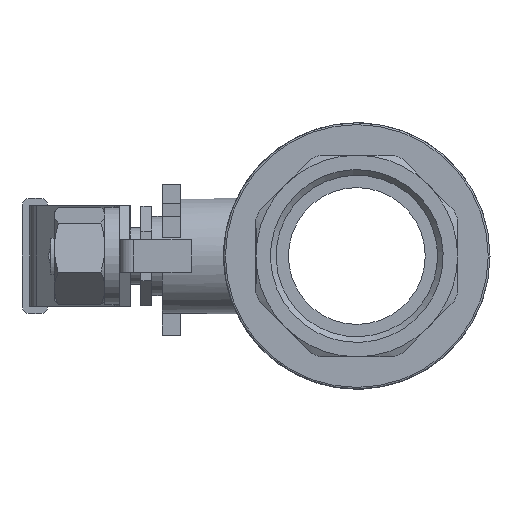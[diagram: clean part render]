
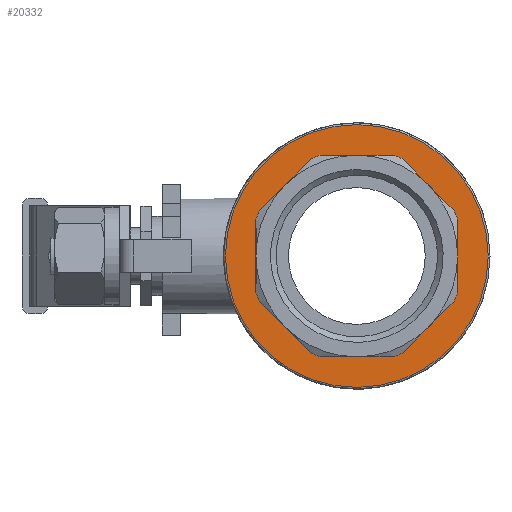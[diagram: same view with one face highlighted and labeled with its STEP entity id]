
A CAD part, left-side view. The second image highlights one B-rep face of the part: STEP entity #20332.
In plain terms, the highlighted planar face has unit normal (-1, 0, 0).
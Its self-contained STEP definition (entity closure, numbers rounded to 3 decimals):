
#185=FACE_BOUND('',#3270,.T.);
#1218=PLANE('',#21448);
#2189=FACE_OUTER_BOUND('',#3269,.T.);
#3269=EDGE_LOOP('',(#18044));
#3270=EDGE_LOOP('',(#18045,#18046,#18047,#18048,#18049,#18050,#18051,#18052,
#18053,#18054,#18055,#18056,#18057,#18058,#18059,#18060));
#5623=LINE('',#32849,#7963);
#5624=LINE('',#32853,#7964);
#5625=LINE('',#32857,#7965);
#5626=LINE('',#32861,#7966);
#5627=LINE('',#32865,#7967);
#5628=LINE('',#32869,#7968);
#5629=LINE('',#32873,#7969);
#5630=LINE('',#32876,#7970);
#7963=VECTOR('',#25925,10.);
#7964=VECTOR('',#25928,10.);
#7965=VECTOR('',#25931,10.);
#7966=VECTOR('',#25934,10.);
#7967=VECTOR('',#25937,10.);
#7968=VECTOR('',#25940,10.);
#7969=VECTOR('',#25943,10.);
#7970=VECTOR('',#25946,10.);
#8165=CIRCLE('',#21446,36.5);
#8167=CIRCLE('',#21449,29.8);
#8168=CIRCLE('',#21450,29.8);
#8169=CIRCLE('',#21451,29.8);
#8170=CIRCLE('',#21452,29.8);
#8171=CIRCLE('',#21453,29.8);
#8172=CIRCLE('',#21454,29.8);
#8173=CIRCLE('',#21455,29.8);
#8174=CIRCLE('',#21456,29.8);
#9965=VERTEX_POINT('',#32840);
#9966=VERTEX_POINT('',#32845);
#9967=VERTEX_POINT('',#32846);
#9968=VERTEX_POINT('',#32848);
#9969=VERTEX_POINT('',#32850);
#9970=VERTEX_POINT('',#32852);
#9971=VERTEX_POINT('',#32854);
#9972=VERTEX_POINT('',#32856);
#9973=VERTEX_POINT('',#32858);
#9974=VERTEX_POINT('',#32860);
#9975=VERTEX_POINT('',#32862);
#9976=VERTEX_POINT('',#32864);
#9977=VERTEX_POINT('',#32866);
#9978=VERTEX_POINT('',#32868);
#9979=VERTEX_POINT('',#32870);
#9980=VERTEX_POINT('',#32872);
#9981=VERTEX_POINT('',#32874);
#12669=EDGE_CURVE('',#9965,#9965,#8165,.T.);
#12671=EDGE_CURVE('',#9966,#9967,#8167,.T.);
#12672=EDGE_CURVE('',#9968,#9967,#5623,.T.);
#12673=EDGE_CURVE('',#9968,#9969,#8168,.T.);
#12674=EDGE_CURVE('',#9970,#9969,#5624,.T.);
#12675=EDGE_CURVE('',#9970,#9971,#8169,.T.);
#12676=EDGE_CURVE('',#9972,#9971,#5625,.T.);
#12677=EDGE_CURVE('',#9972,#9973,#8170,.T.);
#12678=EDGE_CURVE('',#9974,#9973,#5626,.T.);
#12679=EDGE_CURVE('',#9974,#9975,#8171,.T.);
#12680=EDGE_CURVE('',#9976,#9975,#5627,.T.);
#12681=EDGE_CURVE('',#9976,#9977,#8172,.T.);
#12682=EDGE_CURVE('',#9978,#9977,#5628,.T.);
#12683=EDGE_CURVE('',#9978,#9979,#8173,.T.);
#12684=EDGE_CURVE('',#9980,#9979,#5629,.T.);
#12685=EDGE_CURVE('',#9980,#9981,#8174,.T.);
#12686=EDGE_CURVE('',#9966,#9981,#5630,.T.);
#18044=ORIENTED_EDGE('',*,*,#12669,.F.);
#18045=ORIENTED_EDGE('',*,*,#12671,.T.);
#18046=ORIENTED_EDGE('',*,*,#12672,.F.);
#18047=ORIENTED_EDGE('',*,*,#12673,.T.);
#18048=ORIENTED_EDGE('',*,*,#12674,.F.);
#18049=ORIENTED_EDGE('',*,*,#12675,.T.);
#18050=ORIENTED_EDGE('',*,*,#12676,.F.);
#18051=ORIENTED_EDGE('',*,*,#12677,.T.);
#18052=ORIENTED_EDGE('',*,*,#12678,.F.);
#18053=ORIENTED_EDGE('',*,*,#12679,.T.);
#18054=ORIENTED_EDGE('',*,*,#12680,.F.);
#18055=ORIENTED_EDGE('',*,*,#12681,.T.);
#18056=ORIENTED_EDGE('',*,*,#12682,.F.);
#18057=ORIENTED_EDGE('',*,*,#12683,.T.);
#18058=ORIENTED_EDGE('',*,*,#12684,.F.);
#18059=ORIENTED_EDGE('',*,*,#12685,.T.);
#18060=ORIENTED_EDGE('',*,*,#12686,.F.);
#20332=ADVANCED_FACE('',(#2189,#185),#1218,.T.);
#21446=AXIS2_PLACEMENT_3D('',#32842,#25917,#25918);
#21448=AXIS2_PLACEMENT_3D('',#32844,#25921,#25922);
#21449=AXIS2_PLACEMENT_3D('',#32847,#25923,#25924);
#21450=AXIS2_PLACEMENT_3D('',#32851,#25926,#25927);
#21451=AXIS2_PLACEMENT_3D('',#32855,#25929,#25930);
#21452=AXIS2_PLACEMENT_3D('',#32859,#25932,#25933);
#21453=AXIS2_PLACEMENT_3D('',#32863,#25935,#25936);
#21454=AXIS2_PLACEMENT_3D('',#32867,#25938,#25939);
#21455=AXIS2_PLACEMENT_3D('',#32871,#25941,#25942);
#21456=AXIS2_PLACEMENT_3D('',#32875,#25944,#25945);
#25917=DIRECTION('center_axis',(1.,0.,0.));
#25918=DIRECTION('ref_axis',(0.,-1.,0.));
#25921=DIRECTION('center_axis',(-1.,0.,0.));
#25922=DIRECTION('ref_axis',(0.,0.,1.));
#25923=DIRECTION('center_axis',(1.,0.,0.));
#25924=DIRECTION('ref_axis',(0.,1.,0.));
#25925=DIRECTION('',(0.,0.707,-0.707));
#25926=DIRECTION('center_axis',(1.,0.,0.));
#25927=DIRECTION('ref_axis',(0.,1.,0.));
#25928=DIRECTION('',(0.,1.,0.));
#25929=DIRECTION('center_axis',(1.,0.,0.));
#25930=DIRECTION('ref_axis',(0.,1.,0.));
#25931=DIRECTION('',(0.,0.707,0.707));
#25932=DIRECTION('center_axis',(1.,0.,0.));
#25933=DIRECTION('ref_axis',(0.,1.,0.));
#25934=DIRECTION('',(0.,0.,1.));
#25935=DIRECTION('center_axis',(1.,0.,0.));
#25936=DIRECTION('ref_axis',(0.,1.,0.));
#25937=DIRECTION('',(0.,-0.707,0.707));
#25938=DIRECTION('center_axis',(1.,0.,0.));
#25939=DIRECTION('ref_axis',(0.,1.,0.));
#25940=DIRECTION('',(0.,-1.,0.));
#25941=DIRECTION('center_axis',(1.,0.,0.));
#25942=DIRECTION('ref_axis',(0.,1.,0.));
#25943=DIRECTION('',(0.,-0.707,-0.707));
#25944=DIRECTION('center_axis',(1.,0.,0.));
#25945=DIRECTION('ref_axis',(0.,1.,0.));
#25946=DIRECTION('',(0.,0.,-1.));
#32840=CARTESIAN_POINT('',(-136.651,-16.413,36.5));
#32842=CARTESIAN_POINT('Origin',(-136.651,-16.413,0.));
#32844=CARTESIAN_POINT('Origin',(-136.651,16.987,0.));
#32845=CARTESIAN_POINT('',(-136.651,11.587,10.2));
#32846=CARTESIAN_POINT('',(-136.651,10.599,12.587));
#32847=CARTESIAN_POINT('Origin',(-136.651,-16.413,0.));
#32848=CARTESIAN_POINT('',(-136.651,-3.826,27.011));
#32849=CARTESIAN_POINT('',(-136.651,6.992,16.193));
#32850=CARTESIAN_POINT('',(-136.651,-6.213,28.));
#32851=CARTESIAN_POINT('Origin',(-136.651,-16.413,0.));
#32852=CARTESIAN_POINT('',(-136.651,-26.613,28.));
#32853=CARTESIAN_POINT('',(-136.651,-11.313,28.));
#32854=CARTESIAN_POINT('',(-136.651,-28.999,27.011));
#32855=CARTESIAN_POINT('Origin',(-136.651,-16.413,0.));
#32856=CARTESIAN_POINT('',(-136.651,-43.424,12.587));
#32857=CARTESIAN_POINT('',(-136.651,-32.606,23.405));
#32858=CARTESIAN_POINT('',(-136.651,-44.413,10.2));
#32859=CARTESIAN_POINT('Origin',(-136.651,-16.413,0.));
#32860=CARTESIAN_POINT('',(-136.651,-44.413,-10.2));
#32861=CARTESIAN_POINT('',(-136.651,-44.413,5.1));
#32862=CARTESIAN_POINT('',(-136.651,-43.424,-12.587));
#32863=CARTESIAN_POINT('Origin',(-136.651,-16.413,0.));
#32864=CARTESIAN_POINT('',(-136.651,-28.999,-27.011));
#32865=CARTESIAN_POINT('',(-136.651,-39.818,-16.193));
#32866=CARTESIAN_POINT('',(-136.651,-26.613,-28.));
#32867=CARTESIAN_POINT('Origin',(-136.651,-16.413,0.));
#32868=CARTESIAN_POINT('',(-136.651,-6.213,-28.));
#32869=CARTESIAN_POINT('',(-136.651,-21.513,-28.));
#32870=CARTESIAN_POINT('',(-136.651,-3.826,-27.011));
#32871=CARTESIAN_POINT('Origin',(-136.651,-16.413,0.));
#32872=CARTESIAN_POINT('',(-136.651,10.599,-12.587));
#32873=CARTESIAN_POINT('',(-136.651,-0.22,-23.405));
#32874=CARTESIAN_POINT('',(-136.651,11.587,-10.2));
#32875=CARTESIAN_POINT('Origin',(-136.651,-16.413,0.));
#32876=CARTESIAN_POINT('',(-136.651,11.587,-5.1));
